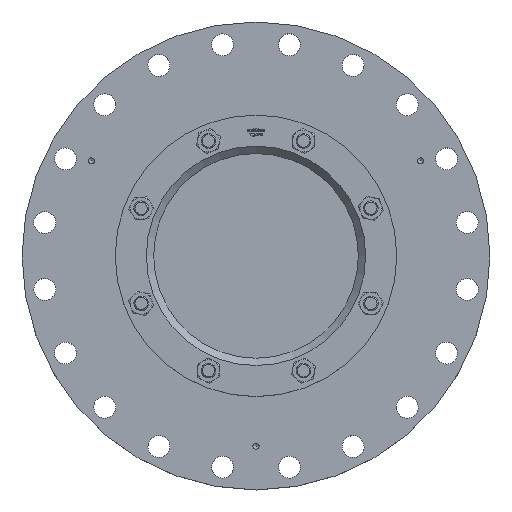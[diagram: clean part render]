
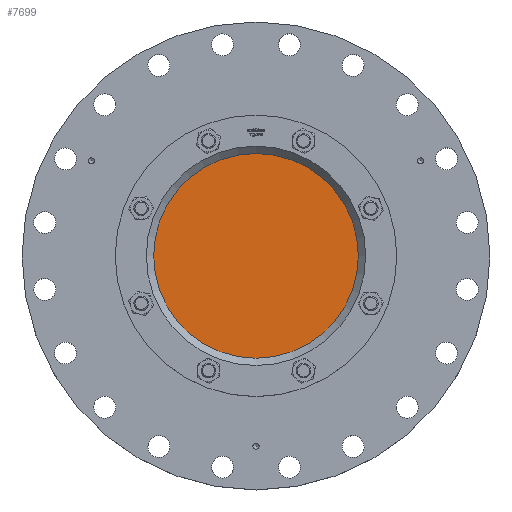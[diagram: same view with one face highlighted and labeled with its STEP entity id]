
A CAD part, top view. The second image highlights one B-rep face of the part: STEP entity #7699.
In plain terms, the highlighted planar face has unit normal (0, 0, 1).
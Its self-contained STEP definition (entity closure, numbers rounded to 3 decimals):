
#2263=FACE_OUTER_BOUND('',#2720,.T.);
#2720=EDGE_LOOP('',(#5326));
#3325=CIRCLE('',#8159,140.);
#3515=VERTEX_POINT('',#10268);
#4239=EDGE_CURVE('',#3515,#3515,#3325,.T.);
#5326=ORIENTED_EDGE('',*,*,#4239,.F.);
#7500=PLANE('',#8158);
#7699=ADVANCED_FACE('',(#2263),#7500,.F.);
#8158=AXIS2_PLACEMENT_3D('',#10267,#8699,#8700);
#8159=AXIS2_PLACEMENT_3D('',#10269,#8701,#8702);
#8699=DIRECTION('center_axis',(0.,0.,-1.));
#8700=DIRECTION('ref_axis',(-1.,0.,0.));
#8701=DIRECTION('center_axis',(0.,0.,-1.));
#8702=DIRECTION('ref_axis',(-1.,0.,0.));
#10267=CARTESIAN_POINT('Origin',(0.,0.,138.));
#10268=CARTESIAN_POINT('',(140.,0.,138.));
#10269=CARTESIAN_POINT('Origin',(0.,0.,138.));
